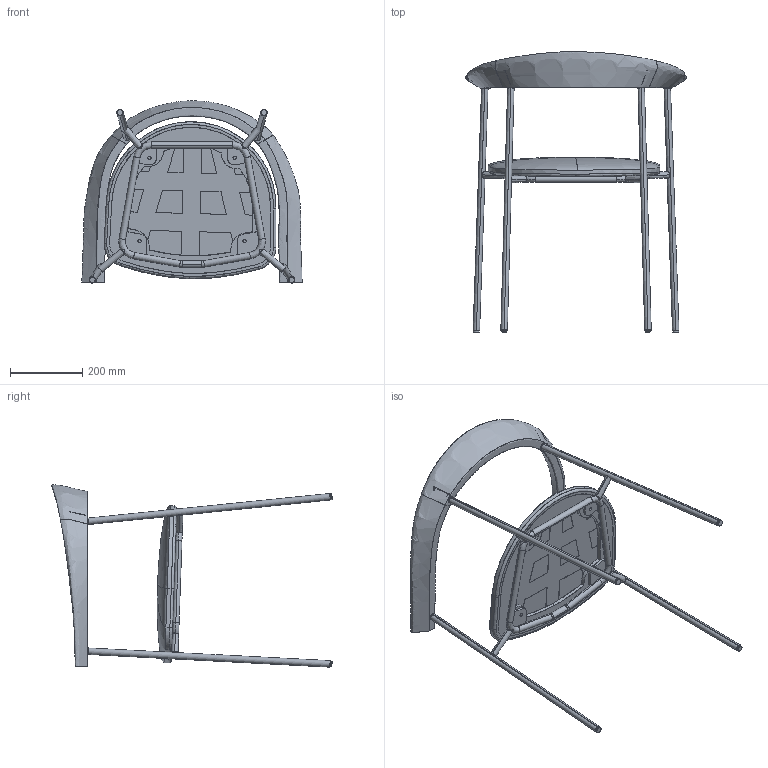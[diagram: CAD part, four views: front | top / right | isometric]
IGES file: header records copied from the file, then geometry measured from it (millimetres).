
Start section: SolidWorks IGES file using analytic representation for surfaces
Global section: file name: C:\Users\mjasic\Desktop\proizvodi u razvoju\nauvik\Nauvik_24_11_2023.IGS; native system: SolidWorks 2021; preprocessor: SolidWorks 2021; author: mjasic; date: 231124.144845; units: millimetre
Bounding box: 608.84 x 775.16 x 503.86 mm (x, y, z)
Surface area: 1220422.8 mm2 (no closed solid volume)
Topology: 0 solids, 0 shells, 353 faces, 7106 edges, 7100 vertices
Faces by surface type: bspline 186, revolution 167
